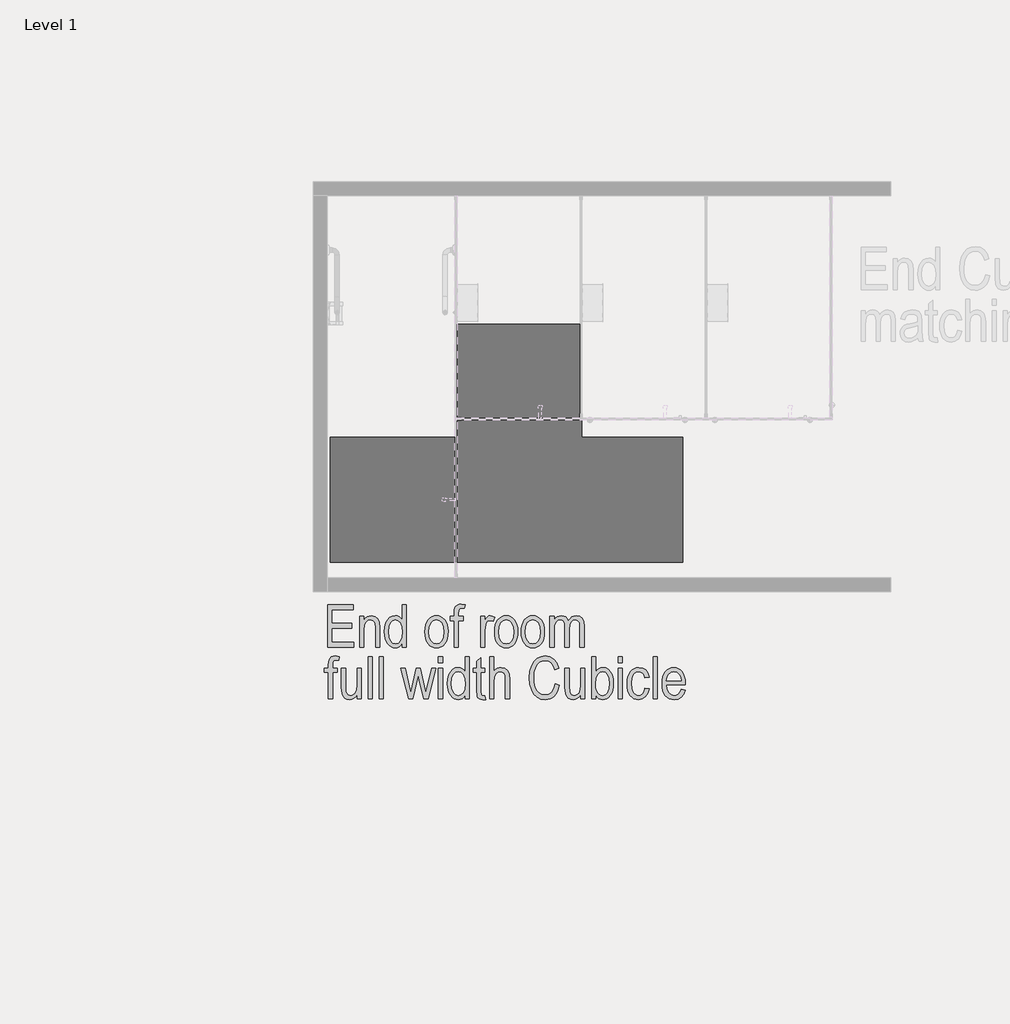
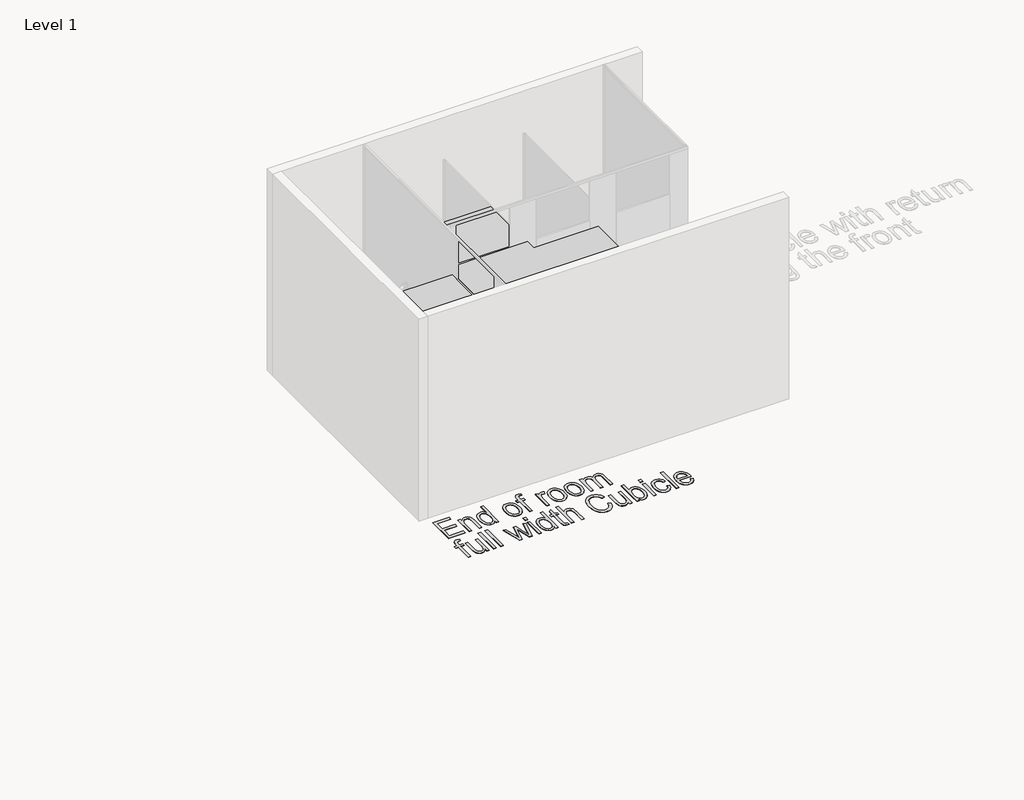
# One storey, part 16 of 21: 3 proxies.
"""IFC4 building model written with IfcOpenShell, lengths in millimetres."""

import ifcopenshell
import ifcopenshell.guid

model = None  # the IFC model being written
_history = None  # IfcOwnerHistory: only IFC2X3 demands one
_inside = {}  # id of a spatial element -> (the spatial element, [elements in it])
_under = {}  # id of a project, library or spatial element -> (it, [spatial elements below it])
_declared = {}  # id of a project -> (the project, [libraries it declares])
_typed = {}  # id of a type object -> (the type object, [elements of that type])
_made_of = {}  # id of a material, layer set ... -> (it, [elements and type objects made of it])


def new_model(schema):
    """Start an empty IFC model of exactly this schema.

    Asked for "IFC4X3", IfcOpenShell would pick the latest addendum, in which some entities
    have other attributes; the version numbers below select the first issue.
    IFC2X3 requires an IfcOwnerHistory on every rooted entity: one is made here for all.
    """
    global model, _history
    if schema == "IFC4X3":
        model = ifcopenshell.file(schema_version=(4, 3, 0, 0))
    else:
        model = ifcopenshell.file(schema=schema)
    _inside.clear()
    _under.clear()
    _declared.clear()
    _typed.clear()
    _made_of.clear()
    _history = None
    if model.schema == "IFC2X3":
        org = make("IfcOrganization", Name="unknown")
        user = make(
            "IfcPersonAndOrganization",
            ThePerson=make("IfcPerson", FamilyName="unknown"),
            TheOrganization=org,
        )
        app = make(
            "IfcApplication",
            ApplicationDeveloper=org,
            Version="unknown",
            ApplicationFullName="unknown",
            ApplicationIdentifier="unknown",
        )
        _history = make(
            "IfcOwnerHistory",
            OwningUser=user,
            OwningApplication=app,
            ChangeAction="ADDED",
            CreationDate=0,
        )
    return model


def make(cls, **values):
    """One entity of the class cls with the attributes given. An attribute that is None is left unset."""
    return model.create_entity(
        cls, **{name: value for name, value in values.items() if value is not None}
    )


def rooted(cls, **values):
    """An entity with a GlobalId (a new one), such as an element, a storey or a relation."""
    return make(cls, GlobalId=ifcopenshell.guid.new(), OwnerHistory=_history, **values)


def si_unit(unit_type, name, prefix=None):
    """IfcSIUnit, for example si_unit("LENGTHUNIT", "METRE", prefix="MILLI")."""
    return make("IfcSIUnit", UnitType=unit_type, Prefix=prefix, Name=name)


def assignment(units):
    """IfcUnitAssignment: the units of a project."""
    return None if units is None else make("IfcUnitAssignment", Units=units)


def point(xyz):
    """IfcCartesianPoint."""
    return None if xyz is None else make("IfcCartesianPoint", Coordinates=xyz)


def direction(xyz):
    """IfcDirection."""
    return None if xyz is None else make("IfcDirection", DirectionRatios=xyz)


def frame(location, z_axis=None, x_axis=None):
    """IfcAxis2Placement3D, a coordinate frame: its origin and axes. An axis left out is left unset."""
    return make(
        "IfcAxis2Placement3D",
        Location=point(location),
        Axis=direction(z_axis),
        RefDirection=direction(x_axis),
    )


def origin():
    """The frame at (0, 0, 0) with its axes left unset."""
    return frame((0.0, 0.0, 0.0))


def origin_with_axes():
    """The frame at (0, 0, 0) with the z axis (0, 0, 1) and the x axis (1, 0, 0) written out."""
    return frame((0.0, 0.0, 0.0), z_axis=(0.0, 0.0, 1.0), x_axis=(1.0, 0.0, 0.0))


def place(relative_to, where):
    """IfcLocalPlacement: puts the frame where relative to a parent placement (None: the world)."""
    return make(
        "IfcLocalPlacement", PlacementRelTo=relative_to, RelativePlacement=where
    )


def context(
    kind, dimensions, precision=None, world=None, true_north=None, identifier=None
):
    """IfcGeometricRepresentationContext, for example the 3D "Model" context."""
    return make(
        "IfcGeometricRepresentationContext",
        ContextIdentifier=identifier,
        ContextType=kind,
        CoordinateSpaceDimension=dimensions,
        Precision=precision,
        WorldCoordinateSystem=world,
        TrueNorth=true_north,
    )


def project(units=None, contexts=None):
    """IfcProject with its units and contexts."""
    return rooted(
        "IfcProject",
        Name="project",
        RepresentationContexts=contexts,
        UnitsInContext=assignment(units),
    )


def spatial(cls, under=None, at=None, **own):
    """A site, building, storey or space (cls), placed at a placement, below another one or the project."""
    s = rooted(cls, ObjectPlacement=at, **own)
    if under is not None:
        _under.setdefault(under.id(), (under, []))[1].append(s)
    return s


def polyline(points):
    """IfcPolyline through the points."""
    return make("IfcPolyline", Points=[point(p) for p in points])


def outline(outer, holes=None, kind="AREA"):
    """IfcArbitraryClosedProfileDef: a profile drawn as a closed curve; with holes, ...WithVoids."""
    if holes is None:
        return make("IfcArbitraryClosedProfileDef", ProfileType=kind, OuterCurve=outer)
    return make(
        "IfcArbitraryProfileDefWithVoids",
        ProfileType=kind,
        OuterCurve=outer,
        InnerCurves=holes,
    )


def extrude(swept, where, along, depth):
    """IfcExtrudedAreaSolid: the profile swept, set in the frame where, extruded along a direction by depth."""
    return make(
        "IfcExtrudedAreaSolid",
        SweptArea=swept,
        Position=where,
        ExtrudedDirection=direction(along),
        Depth=depth,
    )


def shape(context_of_items, identifier, shape_type, items):
    """IfcShapeRepresentation: the items that make up one representation, for example the "Body"."""
    return make(
        "IfcShapeRepresentation",
        ContextOfItems=context_of_items,
        RepresentationIdentifier=identifier,
        RepresentationType=shape_type,
        Items=items,
    )


def source(mapping_origin, context_of_items, identifier, shape_type, items):
    """IfcRepresentationMap: a shape defined once, which mapped items show again and again."""
    return make(
        "IfcRepresentationMap",
        MappingOrigin=mapping_origin,
        MappedRepresentation=shape(context_of_items, identifier, shape_type, items),
    )


def transform(
    local_origin,
    x_axis=None,
    y_axis=None,
    z_axis=None,
    scale=None,
    scale2=None,
    scale3=None,
    uniform=True,
):
    """IfcCartesianTransformationOperator3D, or its non-uniform kind. x_axis, y_axis, z_axis: its Axis1, 2, 3."""
    if uniform:
        return make(
            "IfcCartesianTransformationOperator3D",
            Axis1=direction(x_axis),
            Axis2=direction(y_axis),
            LocalOrigin=point(local_origin),
            Scale=scale,
            Axis3=direction(z_axis),
        )
    return make(
        "IfcCartesianTransformationOperator3DnonUniform",
        Axis1=direction(x_axis),
        Axis2=direction(y_axis),
        LocalOrigin=point(local_origin),
        Scale=scale,
        Axis3=direction(z_axis),
        Scale2=scale2,
        Scale3=scale3,
    )


def mapped(mapping_source, mapping_target):
    """IfcMappedItem: shows the shape of a source again, moved by a transform."""
    return make(
        "IfcMappedItem", MappingSource=mapping_source, MappingTarget=mapping_target
    )


def made_of(thing, what):
    """Note that an element or type object is made of a material, layer set ...; save() writes the relation."""
    if what is not None:
        _made_of.setdefault(what.id(), (what, []))[1].append(thing)
    return thing


def element(
    cls,
    number,
    at=None,
    inside=None,
    cuts=None,
    type_object=None,
    material=None,
    context=None,
    identifier="Body",
    shape_type=None,
    held_by="IfcProductDefinitionShape",
    body=None,
    shapes=None,
    **own,
):
    """One element of the class cls, such as IfcWall. Its Tag is "e" and its number.

    at: its placement. inside: the storey or other place that contains it. cuts: it is an
    opening in that element (IfcRelVoidsElement). A single representation is given by context,
    identifier, shape_type and body (its items); several are given by shapes. held_by: the class
    of the entity that holds the representations. save() writes the other relations.
    """
    e = rooted(cls, Tag="e%d" % number, ObjectPlacement=at, **own)
    if body is not None:
        shapes = [shape(context, identifier, shape_type, body)]
    if shapes is not None:
        e.Representation = make(held_by, Representations=shapes)
    if inside is not None:
        _inside.setdefault(inside.id(), (inside, []))[1].append(e)
    if cuts is not None:
        rooted(
            "IfcRelVoidsElement", RelatingBuildingElement=cuts, RelatedOpeningElement=e
        )
    if type_object is not None:
        _typed.setdefault(type_object.id(), (type_object, []))[1].append(e)
    return made_of(e, material)


def aggregate(whole, parts):
    """IfcRelAggregates: a whole, such as a stair, and the parts it consists of."""
    return rooted("IfcRelAggregates", RelatingObject=whole, RelatedObjects=parts)


def save(model, path):
    """Write the relations noted so far, then the file.

    IfcRelAggregates (storeys below a building ...), IfcRelContainedInSpatialStructure (elements
    in a storey), IfcRelDefinesByType, IfcRelAssociatesMaterial and IfcRelDeclares: one each for
    every whole, place, type object, material and project.
    """
    for whole, parts in _under.values():
        aggregate(whole, parts)
    for where, things in _inside.values():
        rooted(
            "IfcRelContainedInSpatialStructure",
            RelatedElements=things,
            RelatingStructure=where,
        )
    for kind, things in _typed.values():
        rooted("IfcRelDefinesByType", RelatedObjects=things, RelatingType=kind)
    for what, things in _made_of.values():
        rooted("IfcRelAssociatesMaterial", RelatedObjects=things, RelatingMaterial=what)
    for by, libraries in _declared.values():
        rooted("IfcRelDeclares", RelatingContext=by, RelatedDefinitions=libraries)
    model.write(path)


def standard_a78aece1(model_context):
    return source(origin(), model_context, "Body", "SweptSolid", [
        extrude(outline(polyline([(-450.0, -812.5), (-450.0, 812.5), (1262.5, 812.5), (1262.5, -87.5), (450.0, -87.5), (450.0, -812.5), (-450.0, -812.5)])), origin_with_axes(), (0.0, 0.0, 1.0), 1900.0),
    ])


def standard_ef1a4fdd(model_context):
    return source(origin(), model_context, "Body", "SweptSolid", [
        extrude(outline(polyline([(450.0, -450.0), (-450.0, -450.0), (-450.0, 450.0), (450.0, 450.0), (450.0, -450.0)])), origin_with_axes(), (0.0, 0.0, 1.0), 1900.0),
    ])


model = new_model("IFC4")

# Units and contexts
model_context = context("Model", 3, world=origin())
ifc_project = project(units=[si_unit("LENGTHUNIT", "METRE", prefix="MILLI")], contexts=[model_context])

# Site, building, storey
site = spatial("IfcSite", under=ifc_project)
building = spatial("IfcBuilding", under=site)
storey = spatial("IfcBuildingStorey", under=building, Name="Level 1", Elevation=0.0)

# Proxies
placement = place(None, origin())
element("IfcBuildingElementProxy", 1, Name="Arial Narrow-300mm", ObjectType="Arial Narrow-300mm", at=placement, inside=storey, context=model_context, shape_type="SweptSolid", body=[
    extrude(outline(polyline([(-14317.632062, 21671.8248505), (-14317.632062, 21977.0022199), (-14135.5100835, 21977.0022199), (-14135.5100835, 21942.5467104), (-14288.0987682, 21942.5467104), (-14288.0987682, 21844.1023977), (-14145.3545148, 21844.1023977), (-14145.3545148, 21809.6468883), (-14288.0987682, 21809.6468883), (-14288.0987682, 21706.2803599), (-14130.5878679, 21706.2803599), (-14130.5878679, 21671.8248505), (-14317.632062, 21671.8248505)])), origin_with_axes(), (0.0, 0.0, 1.0), 5.0),
    extrude(outline(polyline([(-14086.2879271, 21671.8248505), (-14086.2879271, 21893.3245541), (-14056.7546333, 21893.3245541), (-14056.7546333, 21864.7141757), (-14046.2372429, 21879.4327541), (-14033.6048379, 21889.902076), (-14018.9151006, 21896.1605963), (-14002.2257133, 21898.2467697), (-13976.7301745, 21892.5170031), (-13957.8104081, 21877.5196273), (-13947.0815162, 21853.4469165), (-13943.5436737, 21807.9548766), (-13943.5436737, 21671.8248505), (-13973.0769675, 21671.8248505), (-13973.0769675, 21808.5701536), (-13977.1147226, 21844.7945843), (-13982.2965082, 21854.946654), (-13989.7663549, 21862.4837967), (-13999.0724189, 21867.1560561), (-14009.7628559, 21868.7134759), (-14029.047943, 21864.5315153), (-14043.9876365, 21851.9856337), (-14053.5628841, 21829.2876823), (-14056.7546333, 21794.6495125), (-14056.7546333, 21671.8248505), (-14086.2879271, 21671.8248505)])), origin_with_axes(), (0.0, 0.0, 1.0), 5.0),
    extrude(outline(polyline([(-13781.1105578, 21671.8248505), (-13781.1105578, 21698.589398), (-13790.5992821, 21684.9667817), (-13802.4529771, 21675.0165997), (-13816.0179112, 21668.9311261), (-13830.6403526, 21666.9026349), (-13846.0270833, 21668.7989377), (-13860.3466931, 21674.4878461), (-13873.5991818, 21683.9693601), (-13885.7845496, 21697.2434797), (-13895.979881, 21713.9544979), (-13903.2622606, 21733.7467077), (-13907.6316884, 21756.6201092), (-13909.0881643, 21782.5747023), (-13906.4540098, 21817.4051461), (-13898.5515464, 21846.5250507), (-13886.2556211, 21869.4056625), (-13870.4410806, 21885.5182277), (-13851.8962486, 21895.0646342), (-13831.4094488, 21898.2467697), (-13816.5851197, 21896.3240292), (-13802.87598, 21890.5558078), (-13790.858852, 21881.3458809), (-13781.1105578, 21869.098024), (-13781.1105578, 21977.0022199), (-13751.577264, 21977.0022199), (-13751.577264, 21671.8248505), (-13781.1105578, 21671.8248505)]), holes=[polyline([(-13879.5548705, 21782.3439734), (-13875.8151402, 21744.3506215), (-13864.5959495, 21717.586074), (-13848.396861, 21701.723465), (-13829.7174372, 21696.4359287), (-13811.3360382, 21701.5119635), (-13795.5695662, 21716.7400682), (-13784.7253099, 21742.235607), (-13781.1105578, 21778.1139444), (-13784.7253099, 21818.9529522), (-13795.5695662, 21847.0249632), (-13811.9128603, 21863.2913477), (-13832.0247258, 21868.7134759), (-13850.1273274, 21863.5028492), (-13865.518865, 21847.8709691), (-13876.0458691, 21821.0679667), (-13879.5548705, 21782.3439734)])]), origin_with_axes(), (0.0, 0.0, 1.0), 5.0),
    extrude(outline(polyline([(-13618.6774418, 21782.5747023), (-13617.1969317, 21809.4666313), (-13612.7554011, 21832.8447522), (-13605.3528503, 21852.7090648), (-13594.9892791, 21869.0595692), (-13582.3568741, 21881.8289694), (-13568.1478219, 21890.9499696), (-13552.3621226, 21896.4225697), (-13534.999776, 21898.2467697), (-13517.8873857, 21896.4225697), (-13502.2362782, 21890.9499696), (-13488.0464534, 21881.8289694), (-13475.3179115, 21869.0595692), (-13464.8197484, 21852.8532703), (-13457.3210605, 21833.4215743), (-13452.8218478, 21810.7644812), (-13451.3221102, 21784.8819909), (-13452.7954101, 21756.980623), (-13457.2153098, 21732.8814745), (-13464.5818093, 21712.5845453), (-13474.8949085, 21696.0898354), (-13487.4912621, 21683.3204351), (-13501.7075246, 21674.199435), (-13517.5436959, 21668.7268349), (-13534.999776, 21666.9026349), (-13552.2058999, 21668.7316417), (-13567.9074794, 21674.2186624), (-13582.1045144, 21683.3636968), (-13594.797005, 21696.166745), (-13605.2446961, 21712.5412836), (-13612.7073326, 21732.4007894), (-13617.1849145, 21755.7452623), (-13618.6774418, 21782.5747023)]), holes=[polyline([(-13589.144148, 21782.6516119), (-13585.1929163, 21744.6198052), (-13573.3392212, 21717.7398932), (-13555.6403951, 21701.7619198), (-13534.1537702, 21696.4359287), (-13513.7919485, 21701.8099883), (-13496.5449664, 21717.9321673), (-13484.7777946, 21744.8601477), (-13480.855404, 21782.6516119), (-13484.8066357, 21820.5680542), (-13496.6603308, 21847.4095113), (-13514.3591569, 21863.3874848), (-13535.8457818, 21868.7134759), (-13556.3518091, 21863.3586436), (-13573.5699501, 21847.2941469), (-13585.2505985, 21820.4238487), (-13589.144148, 21782.6516119)])]), origin_with_axes(), (0.0, 0.0, 1.0), 5.0),
    extrude(outline(polyline([(-13407.0221695, 21671.8248505), (-13407.0221695, 21863.7912603), (-13436.5554633, 21863.7912603), (-13436.5554633, 21893.3245541), (-13407.0221695, 21893.3245541), (-13407.0221695, 21916.6281687), (-13405.6666375, 21939.2395968), (-13401.6000414, 21955.3906168), (-13394.7454715, 21966.7828542), (-13385.0260184, 21975.1179342), (-13372.4512956, 21980.2228102), (-13357.030917, 21981.9244355), (-13328.2667194, 21977.0022199), (-13333.4965735, 21952.3911417), (-13351.7241532, 21952.3911417), (-13363.5970757, 21950.4587875), (-13371.5283802, 21944.6617249), (-13375.9987518, 21933.4425342), (-13377.4888757, 21915.2437956), (-13377.4888757, 21893.3245541), (-13343.0333663, 21893.3245541), (-13343.0333663, 21863.7912603), (-13377.4888757, 21863.7912603), (-13377.4888757, 21671.8248505), (-13407.0221695, 21671.8248505)])), origin_with_axes(), (0.0, 0.0, 1.0), 5.0),
    extrude(outline(polyline([(-13215.0557598, 21671.8248505), (-13215.0557598, 21893.3245541), (-13185.5224659, 21893.3245541), (-13185.5224659, 21863.9450795), (-13175.6395799, 21881.211289), (-13166.6026996, 21891.4787232), (-13157.4504549, 21896.5547581), (-13147.2214755, 21898.2467697), (-13132.0702805, 21895.7856619), (-13116.6114471, 21888.4023384), (-13126.4558783, 21858.8690446), (-13149.3749449, 21863.7912603), (-13159.0174884, 21862.0319527), (-13167.7947987, 21856.7540301), (-13174.8993248, 21848.3228131), (-13179.5235156, 21837.1036224), (-13185.5224659, 21790.4194834), (-13185.5224659, 21671.8248505), (-13215.0557598, 21671.8248505)])), origin_with_axes(), (0.0, 0.0, 1.0), 5.0),
    extrude(outline(polyline([(-13116.6114471, 21782.5747023), (-13115.1309369, 21809.4666313), (-13110.6894064, 21832.8447522), (-13103.2868555, 21852.7090648), (-13092.9232843, 21869.0595692), (-13080.2908793, 21881.8289694), (-13066.0818272, 21890.9499696), (-13050.2961278, 21896.4225697), (-13032.9337813, 21898.2467697), (-13015.821391, 21896.4225697), (-13000.1702834, 21890.9499696), (-12985.9804587, 21881.8289694), (-12973.2519167, 21869.0595692), (-12962.7537536, 21852.8532703), (-12955.2550658, 21833.4215743), (-12950.755853, 21810.7644812), (-12949.2561155, 21784.8819909), (-12950.7294154, 21756.980623), (-12955.149315, 21732.8814745), (-12962.5158145, 21712.5845453), (-12972.8289138, 21696.0898354), (-12985.4252674, 21683.3204351), (-12999.6415298, 21674.199435), (-13015.4777011, 21668.7268349), (-13032.9337813, 21666.9026349), (-13050.1399051, 21668.7316417), (-13065.8414846, 21674.2186624), (-13080.0385196, 21683.3636968), (-13092.7310103, 21696.166745), (-13103.1787014, 21712.5412836), (-13110.6413379, 21732.4007894), (-13115.1189198, 21755.7452623), (-13116.6114471, 21782.5747023)]), holes=[polyline([(-13087.0781532, 21782.6516119), (-13083.1269215, 21744.6198052), (-13071.2732265, 21717.7398932), (-13053.5744003, 21701.7619198), (-13032.0877754, 21696.4359287), (-13011.7259537, 21701.8099883), (-12994.4789716, 21717.9321673), (-12982.7117999, 21744.8601477), (-12978.7894093, 21782.6516119), (-12982.740641, 21820.5680542), (-12994.594336, 21847.4095113), (-13012.2931622, 21863.3874848), (-13033.7797871, 21868.7134759), (-13054.2858143, 21863.3586436), (-13071.5039553, 21847.2941469), (-13083.1846038, 21820.4238487), (-13087.0781532, 21782.6516119)])]), origin_with_axes(), (0.0, 0.0, 1.0), 5.0),
    extrude(outline(polyline([(-12924.6450373, 21782.5747023), (-12923.1645271, 21809.4666313), (-12918.7229966, 21832.8447522), (-12911.3204457, 21852.7090648), (-12900.9568745, 21869.0595692), (-12888.3244696, 21881.8289694), (-12874.1154174, 21890.9499696), (-12858.329718, 21896.4225697), (-12840.9673715, 21898.2467697), (-12823.8549812, 21896.4225697), (-12808.2038737, 21890.9499696), (-12794.0140489, 21881.8289694), (-12781.2855069, 21869.0595692), (-12770.7873439, 21852.8532703), (-12763.288656, 21833.4215743), (-12758.7894433, 21810.7644812), (-12757.2897057, 21784.8819909), (-12758.7630056, 21756.980623), (-12763.1829053, 21732.8814745), (-12770.5494047, 21712.5845453), (-12780.862504, 21696.0898354), (-12793.4588576, 21683.3204351), (-12807.67512, 21674.199435), (-12823.5112913, 21668.7268349), (-12840.9673715, 21666.9026349), (-12858.1734954, 21668.7316417), (-12873.8750748, 21674.2186624), (-12888.0721099, 21683.3636968), (-12900.7646005, 21696.166745), (-12911.2122916, 21712.5412836), (-12918.6749281, 21732.4007894), (-12923.15251, 21755.7452623), (-12924.6450373, 21782.5747023)]), holes=[polyline([(-12895.1117435, 21782.6516119), (-12891.1605118, 21744.6198052), (-12879.3068167, 21717.7398932), (-12861.6079906, 21701.7619198), (-12840.1213657, 21696.4359287), (-12819.759544, 21701.8099883), (-12802.5125618, 21717.9321673), (-12790.7453901, 21744.8601477), (-12786.8229995, 21782.6516119), (-12790.7742312, 21820.5680542), (-12802.6279263, 21847.4095113), (-12820.3267524, 21863.3874848), (-12841.8133773, 21868.7134759), (-12862.3194045, 21863.3586436), (-12879.5375456, 21847.2941469), (-12891.218194, 21820.4238487), (-12895.1117435, 21782.6516119)])]), origin_with_axes(), (0.0, 0.0, 1.0), 5.0),
    extrude(outline(polyline([(-12717.9119806, 21671.8248505), (-12717.9119806, 21893.3245541), (-12688.3786868, 21893.3245541), (-12688.3786868, 21865.0987238), (-12678.1785485, 21879.1924115), (-12665.4211654, 21889.6328923), (-12650.7218145, 21896.0933004), (-12634.6957725, 21898.2467697), (-12617.4487904, 21895.9490948), (-12603.085919, 21889.0560702), (-12592.0301612, 21877.7791973), (-12584.70452, 21862.3299775), (-12572.975803, 21878.0676083), (-12559.6319841, 21889.2867991), (-12544.711518, 21896.006777), (-12528.2528594, 21898.2467697), (-12504.8050392, 21893.8148529), (-12486.9139391, 21880.5191025), (-12475.5793839, 21857.4750578), (-12471.8011989, 21823.7982582), (-12471.8011989, 21671.8248505), (-12501.3344927, 21671.8248505), (-12501.3344927, 21813.4923692), (-12504.8723352, 21847.6402402), (-12516.3318684, 21863.2144381), (-12534.0979905, 21868.7134759), (-12552.5370717, 21864.7141757), (-12567.2460364, 21852.7162751), (-12576.8789662, 21832.1429519), (-12580.0899428, 21802.4173841), (-12580.0899428, 21671.8248505), (-12609.6232366, 21671.8248505), (-12609.6232366, 21817.8762175), (-12611.776706, 21841.7278132), (-12618.237114, 21857.2923974), (-12628.4853208, 21865.8582063), (-12642.0021864, 21868.7134759), (-12661.2103638, 21864.3969235), (-12675.9193285, 21851.4472664), (-12685.2638472, 21827.0765307), (-12688.3786868, 21788.496743), (-12688.3786868, 21671.8248505), (-12717.9119806, 21671.8248505)])), origin_with_axes(), (0.0, 0.0, 1.0), 5.0),
    extrude(outline(polyline([(-14312.7098464, 21298.7226381), (-14312.7098464, 21490.6890479), (-14342.2431402, 21490.6890479), (-14342.2431402, 21520.2223417), (-14312.7098464, 21520.2223417), (-14312.7098464, 21543.5259563), (-14311.3543143, 21566.1373844), (-14307.2877182, 21582.2884044), (-14300.4331484, 21593.6806418), (-14290.7136952, 21602.0157218), (-14278.1389725, 21607.1205978), (-14262.7185938, 21608.8222231), (-14233.9543962, 21603.9000075), (-14239.1842503, 21579.2889293), (-14257.4118301, 21579.2889293), (-14269.2847526, 21577.3565751), (-14277.2160571, 21571.5595125), (-14281.6864287, 21560.3403218), (-14283.1765526, 21542.1415832), (-14283.1765526, 21520.2223417), (-14248.7210431, 21520.2223417), (-14248.7210431, 21490.6890479), (-14283.1765526, 21490.6890479), (-14283.1765526, 21298.7226381), (-14312.7098464, 21298.7226381)])), origin_with_axes(), (0.0, 0.0, 1.0), 5.0),
    extrude(outline(polyline([(-14105.9767897, 21298.7226381), (-14105.9767897, 21328.64048), (-14116.9364104, 21313.4219891), (-14129.6649524, 21302.5296642), (-14144.1624157, 21295.9827329), (-14160.4288002, 21293.8004225), (-14179.2524295, 21296.6941469), (-14195.1150385, 21305.3753202), (-14207.1129391, 21318.4884102), (-14214.3424433, 21334.6778851), (-14219.1877493, 21383.0155808), (-14219.1877493, 21520.2223417), (-14189.6544555, 21520.2223417), (-14189.6544555, 21395.6287584), (-14186.308887, 21349.2138032), (-14181.5308769, 21338.6483442), (-14173.8879835, 21330.4094012), (-14164.1781441, 21325.1026375), (-14153.1992959, 21323.3337163), (-14133.587343, 21327.929066), (-14117.8208711, 21341.7151153), (-14108.93781, 21364.1727241), (-14105.9767897, 21399.8587875), (-14105.9767897, 21520.2223417), (-14076.4434959, 21520.2223417), (-14076.4434959, 21298.7226381), (-14105.9767897, 21298.7226381)])), origin_with_axes(), (0.0, 0.0, 1.0), 5.0),
    extrude(outline(polyline([(-14027.2213395, 21298.7226381), (-14027.2213395, 21603.9000075), (-13997.6880457, 21603.9000075), (-13997.6880457, 21298.7226381), (-14027.2213395, 21298.7226381)])), origin_with_axes(), (0.0, 0.0, 1.0), 5.0),
    extrude(outline(polyline([(-13948.4658894, 21298.7226381), (-13948.4658894, 21603.9000075), (-13918.9325956, 21603.9000075), (-13918.9325956, 21298.7226381), (-13948.4658894, 21298.7226381)])), origin_with_axes(), (0.0, 0.0, 1.0), 5.0),
    extrude(outline(polyline([(-13734.5033285, 21298.7226381), (-13790.954989, 21520.2223417), (-13760.7295087, 21520.2223417), (-13730.6578475, 21391.0910909), (-13719.5828623, 21343.0225788), (-13709.5846118, 21389.1683504), (-13679.6667699, 21520.2223417), (-13650.9794819, 21520.2223417), (-13621.2923689, 21390.6296331), (-13611.2941184, 21347.9447944), (-13600.9882294, 21391.0910909), (-13570.147472, 21520.2223417), (-13539.9219917, 21520.2223417), (-13592.8358097, 21298.7226381), (-13625.7531268, 21298.7226381), (-13657.824438, 21432.8530141), (-13665.4384904, 21471.0001853), (-13704.2778481, 21298.7226381), (-13734.5033285, 21298.7226381)])), origin_with_axes(), (0.0, 0.0, 1.0), 5.0),
    extrude(outline(polyline([(-13520.2331291, 21559.6000667), (-13520.2331291, 21603.9000075), (-13490.6998353, 21603.9000075), (-13490.6998353, 21559.6000667), (-13520.2331291, 21559.6000667)])), origin_with_axes(), (0.0, 0.0, 1.0), 5.0),
    extrude(outline(polyline([(-13520.2331291, 21298.7226381), (-13520.2331291, 21520.2223417), (-13490.6998353, 21520.2223417), (-13490.6998353, 21298.7226381), (-13520.2331291, 21298.7226381)])), origin_with_axes(), (0.0, 0.0, 1.0), 5.0),
    extrude(outline(polyline([(-13328.2667194, 21298.7226381), (-13328.2667194, 21325.4871856), (-13337.7554436, 21311.8645693), (-13349.6091387, 21301.9143873), (-13363.1740728, 21295.8289137), (-13377.7965142, 21293.8004225), (-13393.1832449, 21295.6967253), (-13407.5028546, 21301.3856337), (-13420.7553434, 21310.8671477), (-13432.9407112, 21324.1412673), (-13443.1360426, 21340.8522855), (-13450.4184222, 21360.6444953), (-13454.78785, 21383.5178968), (-13456.2443259, 21409.4724899), (-13453.6101714, 21444.3029337), (-13445.707708, 21473.4228383), (-13433.4117826, 21496.3034501), (-13417.5972422, 21512.4160153), (-13399.0524102, 21521.9624218), (-13378.5656104, 21525.1445573), (-13363.7412813, 21523.2218168), (-13350.0321416, 21517.4535954), (-13338.0150136, 21508.2436685), (-13328.2667194, 21495.9958116), (-13328.2667194, 21603.9000075), (-13298.7334255, 21603.9000075), (-13298.7334255, 21298.7226381), (-13328.2667194, 21298.7226381)]), holes=[polyline([(-13426.7110321, 21409.241761), (-13422.9713018, 21371.2484091), (-13411.7521111, 21344.4838616), (-13395.5530225, 21328.6212526), (-13376.8735988, 21323.3337163), (-13358.4921997, 21328.4097511), (-13342.7257278, 21343.6378558), (-13331.8814715, 21369.1333946), (-13328.2667194, 21405.011732), (-13331.8814715, 21445.8507398), (-13342.7257278, 21473.9227508), (-13359.0690219, 21490.1891353), (-13379.1808873, 21495.6112635), (-13397.283489, 21490.4006368), (-13412.6750265, 21474.7687567), (-13423.2020307, 21447.9657543), (-13426.7110321, 21409.241761)])]), origin_with_axes(), (0.0, 0.0, 1.0), 5.0),
    extrude(outline(polyline([(-13185.5224659, 21323.3337163), (-13180.6002503, 21293.8004225), (-13202.9040399, 21293.8004225), (-13216.9400454, 21295.4059108), (-13227.9765758, 21300.2223757), (-13236.013631, 21307.8268143), (-13241.0512111, 21317.7962237), (-13244.5890536, 21362.173074), (-13244.5890536, 21490.6890479), (-13269.2001317, 21490.6890479), (-13269.2001317, 21520.2223417), (-13244.5890536, 21520.2223417), (-13244.5890536, 21569.444498), (-13215.0557598, 21594.0555762), (-13215.0557598, 21520.2223417), (-13185.5224659, 21520.2223417), (-13185.5224659, 21490.6890479), (-13215.0557598, 21490.6890479), (-13215.0557598, 21355.4050275), (-13212.4408327, 21331.1784974), (-13207.0956142, 21325.2949116), (-13198.443282, 21323.3337163), (-13185.5224659, 21323.3337163)])), origin_with_axes(), (0.0, 0.0, 1.0), 5.0),
    extrude(outline(polyline([(-13151.0669565, 21298.7226381), (-13151.0669565, 21603.9000075), (-13121.5336627, 21603.9000075), (-13121.5336627, 21497.534004), (-13110.3913816, 21509.6376553), (-13097.8839548, 21518.2611464), (-13084.0113822, 21523.4237046), (-13068.7736638, 21525.1445573), (-13043.7203554, 21520.5299801), (-13024.5506328, 21506.6862487), (-13017.4509135, 21495.5343539), (-13012.3796855, 21480.5369781), (-13008.3227031, 21439.0057837), (-13008.3227031, 21298.7226381), (-13037.8559969, 21298.7226381), (-13037.8559969, 21441.0823434), (-13040.3267184, 21466.1164245), (-13047.738883, 21482.9211763), (-13059.4772136, 21492.4387417), (-13074.9264334, 21495.6112635), (-13092.8656021, 21491.5446674), (-13107.9206601, 21479.344879), (-13118.130412, 21456.7815194), (-13121.5336627, 21421.6242097), (-13121.5336627, 21298.7226381), (-13151.0669565, 21298.7226381)])), origin_with_axes(), (0.0, 0.0, 1.0), 5.0),
    extrude(outline(polyline([(-12678.5342555, 21407.0113821), (-12649.0009617, 21397.1669508), (-12663.8252908, 21351.7037521), (-12674.2801922, 21333.9256129), (-12686.7635848, 21319.4497805), (-12700.9966712, 21308.2281863), (-12716.7006541, 21300.212762), (-12733.8755335, 21295.4035073), (-12752.5213093, 21293.8004225), (-12784.0542532, 21298.0304515), (-12810.6649815, 21310.7205387), (-12832.6226778, 21332.7647583), (-12850.1965258, 21365.0571847), (-12861.7329687, 21405.8481241), (-12865.5784497, 21453.3878825), (-12861.7425824, 21499.8124514), (-12850.2349806, 21538.4883762), (-12832.1804475, 21569.0311088), (-12808.7037862, 21591.056101), (-12780.9874821, 21604.3806926), (-12750.2140207, 21608.8222231), (-12717.3351585, 21603.1982072), (-12689.4554215, 21586.3261594), (-12667.8822733, 21558.5521732), (-12653.9231774, 21520.2223417), (-12683.4564712, 21510.3779104), (-12694.0411575, 21538.3730118), (-12708.8751003, 21558.3695128), (-12727.9582996, 21570.3674134), (-12751.2907554, 21574.3667136), (-12774.9693044, 21571.1749644), (-12795.2446028, 21561.5997168), (-12811.9532176, 21545.2660364), (-12824.9317159, 21521.7989889), (-12833.2667959, 21491.1793467), (-12836.0451559, 21453.3878825), (-12834.6319416, 21424.0757038), (-12830.3922988, 21398.6666884), (-12823.3262276, 21377.1608361), (-12813.4337278, 21359.558147), (-12801.2002915, 21345.8634279), (-12787.1114106, 21336.0814857), (-12771.1670851, 21330.2123203), (-12753.3673151, 21328.2559319), (-12727.5160693, 21333.1396927), (-12705.4910771, 21347.7909752), (-12688.695939, 21372.3635986), (-12678.5342555, 21407.0113821)])), origin_with_axes(), (0.0, 0.0, 1.0), 5.0),
    extrude(outline(polyline([(-12496.412277, 21298.7226381), (-12496.412277, 21328.64048), (-12507.3718978, 21313.4219891), (-12520.1004398, 21302.5296642), (-12534.597903, 21295.9827329), (-12550.8642875, 21293.8004225), (-12569.6879168, 21296.6941469), (-12585.5505258, 21305.3753202), (-12597.5484264, 21318.4884102), (-12604.7779306, 21334.6778851), (-12609.6232366, 21383.0155808), (-12609.6232366, 21520.2223417), (-12580.0899428, 21520.2223417), (-12580.0899428, 21395.6287584), (-12576.7443744, 21349.2138032), (-12571.9663643, 21338.6483442), (-12564.3234709, 21330.4094012), (-12554.6136314, 21325.1026375), (-12543.6347833, 21323.3337163), (-12524.0228304, 21327.929066), (-12508.2563584, 21341.7151153), (-12499.3732974, 21364.1727241), (-12496.412277, 21399.8587875), (-12496.412277, 21520.2223417), (-12466.8789832, 21520.2223417), (-12466.8789832, 21298.7226381), (-12496.412277, 21298.7226381)])), origin_with_axes(), (0.0, 0.0, 1.0), 5.0),
    extrude(outline(polyline([(-12388.1235331, 21298.7226381), (-12417.6568269, 21298.7226381), (-12417.6568269, 21603.9000075), (-12388.1235331, 21603.9000075), (-12388.1235331, 21496.6110885), (-12377.5580741, 21509.1665839), (-12365.704379, 21518.0688723), (-12352.4855382, 21523.3756361), (-12337.824642, 21525.1445573), (-12317.3378422, 21521.9624218), (-12298.7930103, 21512.4160153), (-12282.9784698, 21496.4092008), (-12270.6825444, 21473.8458412), (-12262.780081, 21445.2546903), (-12260.1459266, 21411.1645015), (-12261.6096127, 21384.625876), (-12266.0006713, 21361.3078408), (-12273.3191023, 21341.2103959), (-12283.5649056, 21324.3335413), (-12295.7622906, 21310.9753018), (-12308.9354663, 21301.4337022), (-12323.0844328, 21295.7087424), (-12338.2091901, 21293.8004225), (-12353.1681111, 21295.7808451), (-12366.51193, 21301.7221132), (-12378.1829648, 21311.5665445), (-12388.1235331, 21325.2564567), (-12388.1235331, 21298.7226381)]), holes=[polyline([(-12388.1235331, 21411.1645015), (-12386.5468859, 21380.6409963), (-12381.8169443, 21358.9044152), (-12374.202892, 21343.6186284), (-12363.9739126, 21332.4475061), (-12351.8029654, 21325.6121637), (-12338.3630094, 21323.3337163), (-12320.3565448, 21328.7558444), (-12304.4843221, 21345.0222289), (-12293.3804958, 21372.0944149), (-12289.6792204, 21409.9339476), (-12293.245904, 21448.2830065), (-12303.9459547, 21474.8841211), (-12319.8374048, 21490.4294779), (-12338.9782863, 21495.6112635), (-12357.0905017, 21490.1891353), (-12373.1261573, 21473.9227508), (-12384.3741891, 21447.3889322), (-12388.1235331, 21411.1645015)])]), origin_with_axes(), (0.0, 0.0, 1.0), 5.0),
    extrude(outline(polyline([(-12225.6904171, 21559.6000667), (-12225.6904171, 21603.9000075), (-12196.1571233, 21603.9000075), (-12196.1571233, 21559.6000667), (-12225.6904171, 21559.6000667)])), origin_with_axes(), (0.0, 0.0, 1.0), 5.0),
    extrude(outline(polyline([(-12225.6904171, 21298.7226381), (-12225.6904171, 21520.2223417), (-12196.1571233, 21520.2223417), (-12196.1571233, 21298.7226381), (-12225.6904171, 21298.7226381)])), origin_with_axes(), (0.0, 0.0, 1.0), 5.0),
    extrude(outline(polyline([(-12033.7240073, 21377.4780882), (-12004.1907135, 21372.5558726), (-12013.2756623, 21338.7252538), (-12030.2246197, 21313.9891975), (-12053.1917547, 21298.8476162), (-12080.3312366, 21293.8004225), (-12097.3090351, 21295.6294293), (-12112.7101864, 21301.11645), (-12126.5346904, 21310.2614844), (-12138.7825473, 21323.0645326), (-12148.8096389, 21339.4534918), (-12155.9718472, 21359.3562592), (-12160.2691722, 21382.7728349), (-12161.7016139, 21409.7032187), (-12160.2259105, 21436.7441602), (-12155.7988006, 21460.1847701), (-12148.420284, 21480.0250485), (-12138.0903607, 21496.2649953), (-12125.4435352, 21508.8998036), (-12111.1143118, 21517.9246668), (-12095.1026904, 21523.3395847), (-12077.4086711, 21525.1445573), (-12051.115195, 21520.8376186), (-12029.3017042, 21507.9168026), (-12013.2372075, 21486.3821092), (-12004.1907135, 21456.2335384), (-12033.7240073, 21451.3113228), (-12040.0305961, 21470.7406153), (-12049.7212082, 21484.5747331), (-12062.2382487, 21492.8521309), (-12077.024123, 21495.6112635), (-12098.8183864, 21490.5063875), (-12116.5172125, 21475.1917596), (-12128.2555432, 21448.7636916), (-12132.16832, 21410.3184957), (-12128.5247268, 21370.7484966), (-12117.5939472, 21343.8685846), (-12100.9718557, 21328.4674333), (-12080.254327, 21323.3337163), (-12063.7091452, 21326.6312162), (-12049.759663, 21336.523716), (-12039.4249329, 21353.3573089), (-12033.7240073, 21377.4780882)])), origin_with_axes(), (0.0, 0.0, 1.0), 5.0),
    extrude(outline(polyline([(-11974.6574197, 21298.7226381), (-11974.6574197, 21603.9000075), (-11945.1241259, 21603.9000075), (-11945.1241259, 21298.7226381), (-11974.6574197, 21298.7226381)])), origin_with_axes(), (0.0, 0.0, 1.0), 5.0),
    extrude(outline(polyline([(-11772.8465787, 21367.633657), (-11743.3132849, 21362.7114413), (-11754.5228619, 21332.7551446), (-11772.1543921, 21311.1819964), (-11795.4964616, 21298.1458159), (-11823.8376563, 21293.8004225), (-11842.3296129, 21295.6294293), (-11858.9661249, 21301.11645), (-11873.7471924, 21310.2614844), (-11886.6728152, 21323.0645326), (-11897.1709783, 21339.3237068), (-11904.6696662, 21358.8371193), (-11909.1688789, 21381.60477), (-11910.6686165, 21407.626659), (-11909.1616686, 21434.5762703), (-11904.6408251, 21458.1274378), (-11897.1060858, 21478.2801615), (-11886.5574508, 21495.0344413), (-11873.7015273, 21508.2076171), (-11859.2449223, 21517.6170283), (-11843.1876358, 21523.2626751), (-11825.5296679, 21525.1445573), (-11808.6119551, 21523.3275675), (-11793.1603319, 21517.8765983), (-11779.1747983, 21508.7916495), (-11766.6553543, 21496.0727212), (-11756.3422551, 21479.9120874), (-11748.9757556, 21460.5020223), (-11744.5558559, 21437.8425257), (-11743.082556, 21411.9335977), (-11743.3132849, 21402.0891664), (-11881.1353227, 21402.0891664), (-11875.5882164, 21367.825931), (-11862.9461977, 21343.176398), (-11844.9781879, 21328.2943867), (-11823.4531082, 21323.3337163), (-11806.6483564, 21326.1024626), (-11792.6123508, 21334.4087014), (-11781.3450916, 21348.2524329), (-11772.8465787, 21367.633657)]), holes=[polyline([(-11879.1356726, 21431.6224602), (-11772.8465787, 21431.6224602), (-11777.1535174, 21456.8872702), (-11785.7673947, 21474.8456663), (-11803.4181524, 21490.4198642), (-11825.2989391, 21495.6112635), (-11845.3915771, 21491.2850974), (-11862.2924659, 21478.3065991), (-11874.1557747, 21457.9832322), (-11879.1356726, 21431.6224602)])]), origin_with_axes(), (0.0, 0.0, 1.0), 5.0),
])
standard_shape = standard_a78aece1(model_context)
element("IfcBuildingElementProxy", 2, Name="Clearance-Door-Circulation-AS1428.1-2021-Duracube : Standard", ObjectType="Clearance-Door-Circulation-AS1428.1-2021-Duracube : Standard", at=placement, inside=storey, context=model_context, shape_type="MappedRepresentation", body=[
    mapped(standard_shape, transform((-12575.3822845, 22733.8616863, 0.0), x_axis=(0.0, 1.0, 0.0), y_axis=(-1.0, 0.0, 0.0), z_axis=(0.0, 0.0, 1.0))),
])
standard_2_shape = standard_ef1a4fdd(model_context)
element("IfcBuildingElementProxy", 3, Name="Clearance-Door-Circulation-AS1428.1-2021-Duracube : Standard", ObjectType="Clearance-Door-Circulation-AS1428.1-2021-Duracube : Standard", at=placement, inside=storey, context=model_context, shape_type="MappedRepresentation", body=[
    mapped(standard_2_shape, transform((-13850.8822845, 22733.8616863, 0.0), x_axis=(0.0, 1.0, 0.0), y_axis=(-1.0, 0.0, 0.0), z_axis=(0.0, 0.0, 1.0))),
])

save(model, "model.ifc")
